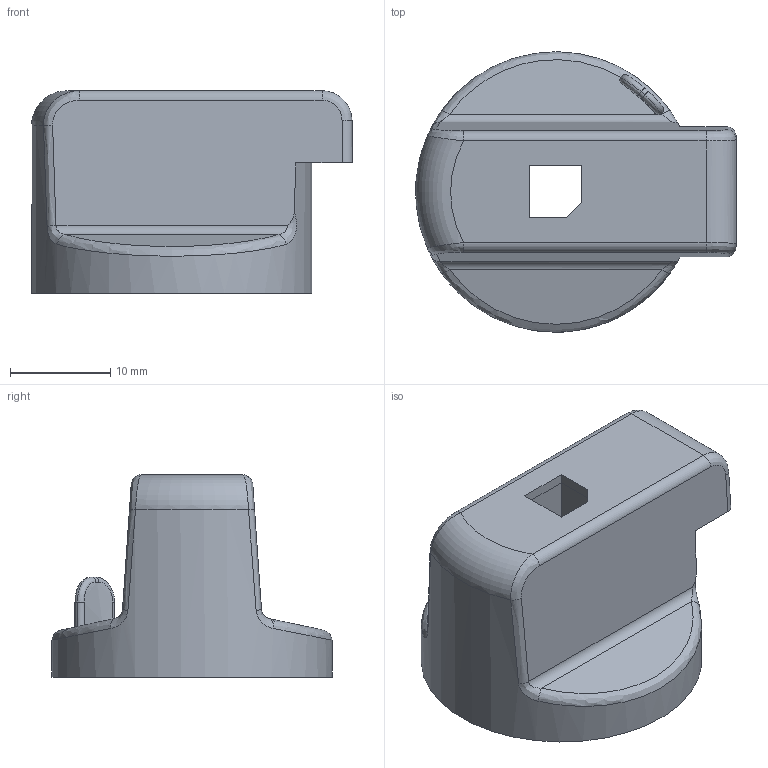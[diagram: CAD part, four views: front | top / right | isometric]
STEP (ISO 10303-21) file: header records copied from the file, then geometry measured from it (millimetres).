
FILE_DESCRIPTION (( 'STEP AP214' ), '1' );
FILE_NAME ('Ðóêîÿòêà íåïîñðåäñòâåííîãî ìîíòàæà êðàñíàÿ OptiSwitch DI-16-63 (äëÿ OptiSwitch DI-16-63-3).STEP', '2023-03-23T18:27:54', ( 'Ïîëüçîâàòåëü' ), ( '' ), 'SwSTEP 2.0', 'SolidWorks 2018', '' );
FILE_SCHEMA (( 'AUTOMOTIVE_DESIGN' ));
Length unit declared in the file: millimetre
Products named in the file (2): Ðóêîÿòêà íåïîñðåäñòâåííîãî ìîíòàæà êðàñíàÿ OptiSwitch DI-16-63; Ðóêîÿòêà íåïîñðåäñòâåííîãî ìîíòàæà êðàñíàÿ OptiSwitch DI-16-63 (äëÿ OptiSwitch DI-16-63-3)
Assembly tree (1 placements, depth 2):
  Ðóêîÿòêà íåïîñðåäñòâåííîãî ìîíòàæà êðàñíàÿ OptiSwitch DI-16-63 (äëÿ OptiSwitch DI-16-63-3)
    Ðóêîÿòêà íåïîñðåäñòâåííîãî ìîíòàæà êðàñíàÿ OptiSwitch DI-16-63
Bounding box: 31.96 x 28 x 20.2 mm (x, y, z)
Volume: 6024 mm3; surface area: 3923.3 mm2
Topology: 1 solids, 1 shells, 67 faces, 171 edges, 108 vertices
Faces by surface type: plane 29, bspline 20, cylinder 15, torus 3
Full cylindrical faces by diameter (mm): 25.3 x1, 28 x1
Entity records: 2868 total; most frequent: CARTESIAN_POINT 1391, ORIENTED_EDGE 336, DIRECTION 246, EDGE_CURVE 168, VERTEX_POINT 107, VECTOR 82, LINE 82, AXIS2_PLACEMENT_3D 82
